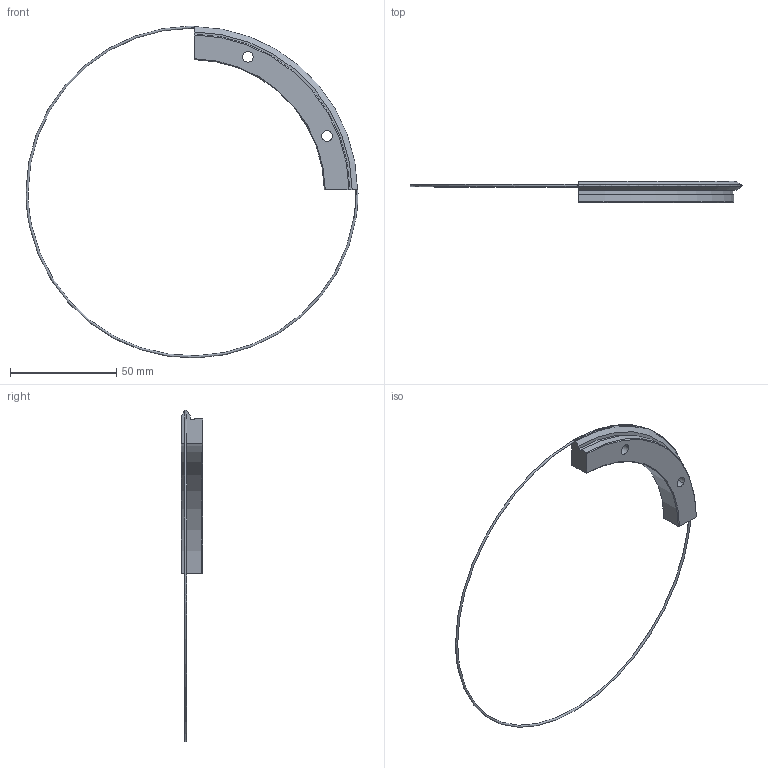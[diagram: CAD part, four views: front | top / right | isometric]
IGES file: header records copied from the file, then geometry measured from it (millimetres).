
Start section: 3D InterOp IGES (v. 2019 1.0.2), Spatial Corp. Copyright (c) 1999-2017.
Global section: file name: REV 156 R90.igs; native system: Spatial Corp.; preprocessor: 3D InterOp GENERIC/IGES 3.0; author: Noname; organization: Noname; date: 20220719.140124; units: millimetre
Bounding box: 156.2 x 10 x 156.16 mm (x, y, z)
Surface area: 7483.9 mm2 (no closed solid volume)
Topology: 0 solids, 0 shells, 24 faces, 122 edges, 121 vertices
Faces by surface type: revolution 16, extrusion 8
